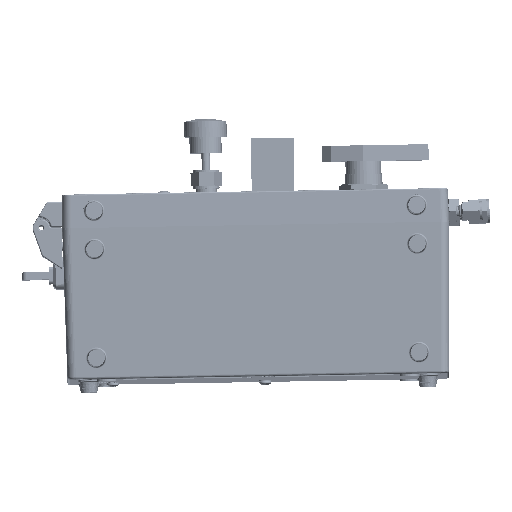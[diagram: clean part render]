
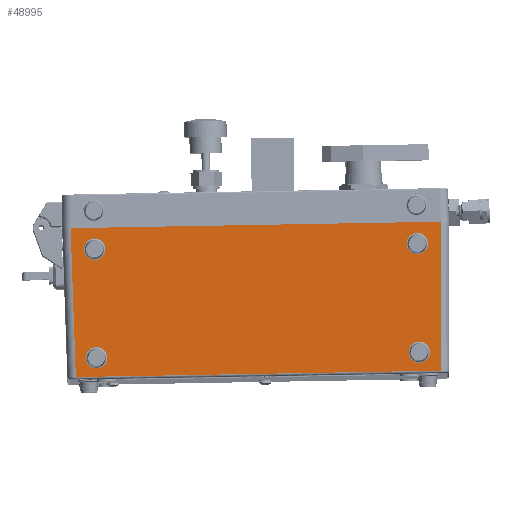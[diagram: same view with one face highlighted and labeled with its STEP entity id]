
A CAD part, front view. The second image highlights one B-rep face of the part: STEP entity #48995.
In plain terms, the highlighted planar face has unit normal (0, -1, 0).
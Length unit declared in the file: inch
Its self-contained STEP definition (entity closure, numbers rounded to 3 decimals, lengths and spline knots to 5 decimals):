
#4519 = CARTESIAN_POINT ( 'NONE',  ( -4.37488, 0., 9.24694 ) ) ;
#5379 = ORIENTED_EDGE ( 'NONE', *, *, #472156, .F. ) ;
#6114 = CIRCLE ( 'NONE', #458488, 0.25 ) ;
#12433 = CIRCLE ( 'NONE', #215433, 0.25 ) ;
#15913 = EDGE_LOOP ( 'NONE', ( #249072, #5379 ) ) ;
#21986 = CARTESIAN_POINT ( 'NONE',  ( -3.61627, 0., 8.76011 ) ) ;
#22832 = CARTESIAN_POINT ( 'NONE',  ( 3.97774, 0., 6.59743 ) ) ;
#24539 = EDGE_LOOP ( 'NONE', ( #476287, #180617, #330321, #385509 ) ) ;
#26796 = DIRECTION ( 'NONE',  ( -0.017, 0., 1. ) ) ;
#29016 = VERTEX_POINT ( 'NONE', #308467 ) ;
#29191 = EDGE_CURVE ( 'NONE', #53245, #47158, #323024, .T. ) ;
#34544 = DIRECTION ( 'NONE',  ( -0.035, 0., 0.999 ) ) ;
#41278 = DIRECTION ( 'NONE',  ( -0.017, 0., 1. ) ) ;
#41744 = CARTESIAN_POINT ( 'NONE',  ( 3.9377, 0., 8.89194 ) ) ;
#44591 = DIRECTION ( 'NONE',  ( 0., -1., 0. ) ) ;
#44761 = DIRECTION ( 'NONE',  ( -1., 0., -0.017 ) ) ;
#45517 = EDGE_LOOP ( 'NONE', ( #267091, #366267 ) ) ;
#47158 = VERTEX_POINT ( 'NONE', #326958 ) ;
#48995 = ADVANCED_FACE ( 'NONE', ( #295420, #109790, #107359, #256308, #405396 ), #414955, .T. ) ;
#53245 = VERTEX_POINT ( 'NONE', #169952 ) ;
#59188 = DIRECTION ( 'NONE',  ( -0.017, 0., 1. ) ) ;
#59425 = CARTESIAN_POINT ( 'NONE',  ( 3.98647, 0., 6.09751 ) ) ;
#66398 = LINE ( 'NONE', #259203, #364393 ) ;
#72707 = EDGE_CURVE ( 'NONE', #386450, #334990, #245114, .T. ) ;
#75458 = DIRECTION ( 'NONE',  ( 0., -1., 0. ) ) ;
#88629 = DIRECTION ( 'NONE',  ( 0., -1., 0. ) ) ;
#95147 = DIRECTION ( 'NONE',  ( -1., 0., -0.017 ) ) ;
#95548 = DIRECTION ( 'NONE',  ( -0.017, 0., 1. ) ) ;
#97384 = CARTESIAN_POINT ( 'NONE',  ( -4.05644, 0., 5.76616 ) ) ;
#107250 = DIRECTION ( 'NONE',  ( -0.017, 0., 1. ) ) ;
#107359 = FACE_BOUND ( 'NONE', #45517, .T. ) ;
#108607 = EDGE_CURVE ( 'NONE', #280650, #478533, #298890, .T. ) ;
#109790 = FACE_BOUND ( 'NONE', #15913, .T. ) ;
#119793 = DIRECTION ( 'NONE',  ( -0.017, 0., 1. ) ) ;
#120033 = AXIS2_PLACEMENT_3D ( 'NONE', #423261, #88629, #59188 ) ;
#129997 = CARTESIAN_POINT ( 'NONE',  ( 4.48207, 0., 9.40152 ) ) ;
#132408 = AXIS2_PLACEMENT_3D ( 'NONE', #444363, #75458, #107250 ) ;
#134571 = DIRECTION ( 'NONE',  ( 0., -1., 0. ) ) ;
#137215 = EDGE_CURVE ( 'NONE', #47158, #53245, #12433, .T. ) ;
#139483 = CIRCLE ( 'NONE', #482680, 0.25 ) ;
#141960 = EDGE_CURVE ( 'NONE', #216763, #238064, #389837, .T. ) ;
#143557 = DIRECTION ( 'NONE',  ( -0.017, 0., 1. ) ) ;
#151660 = DIRECTION ( 'NONE',  ( 0., -1., 0. ) ) ;
#157437 = EDGE_LOOP ( 'NONE', ( #482461, #284400 ) ) ;
#168706 = EDGE_CURVE ( 'NONE', #238064, #216763, #220721, .T. ) ;
#169952 = CARTESIAN_POINT ( 'NONE',  ( -3.62063, 0., 9.01007 ) ) ;
#174579 = EDGE_CURVE ( 'NONE', #433099, #478533, #66398, .T. ) ;
#175124 = VERTEX_POINT ( 'NONE', #440793 ) ;
#175479 = DIRECTION ( 'NONE',  ( 0., -1., 0. ) ) ;
#177710 = EDGE_CURVE ( 'NONE', #175124, #311378, #6114, .T. ) ;
#180617 = ORIENTED_EDGE ( 'NONE', *, *, #108607, .T. ) ;
#208331 = EDGE_CURVE ( 'NONE', #29016, #280650, #288579, .T. ) ;
#213725 = AXIS2_PLACEMENT_3D ( 'NONE', #441599, #402513, #143557 ) ;
#215433 = AXIS2_PLACEMENT_3D ( 'NONE', #21986, #324849, #26796 ) ;
#216763 = VERTEX_POINT ( 'NONE', #22832 ) ;
#219238 = EDGE_LOOP ( 'NONE', ( #275580, #254776 ) ) ;
#220721 = CIRCLE ( 'NONE', #478157, 0.25 ) ;
#237235 = EDGE_CURVE ( 'NONE', #29016, #433099, #437050, .T. ) ;
#238064 = VERTEX_POINT ( 'NONE', #59425 ) ;
#245114 = CIRCLE ( 'NONE', #213725, 0.25 ) ;
#249072 = ORIENTED_EDGE ( 'NONE', *, *, #177710, .F. ) ;
#254776 = ORIENTED_EDGE ( 'NONE', *, *, #137215, .F. ) ;
#256308 = FACE_BOUND ( 'NONE', #219238, .T. ) ;
#259203 = CARTESIAN_POINT ( 'NONE',  ( -4.17342, 0., 9.1165 ) ) ;
#261101 = DIRECTION ( 'NONE',  ( 0., -1., 0. ) ) ;
#262166 = CARTESIAN_POINT ( 'NONE',  ( -4.37488, 0., 9.24694 ) ) ;
#267091 = ORIENTED_EDGE ( 'NONE', *, *, #464232, .F. ) ;
#275580 = ORIENTED_EDGE ( 'NONE', *, *, #29191, .F. ) ;
#277485 = CARTESIAN_POINT ( 'NONE',  ( 3.94206, 0., 8.64198 ) ) ;
#280650 = VERTEX_POINT ( 'NONE', #129997 ) ;
#284400 = ORIENTED_EDGE ( 'NONE', *, *, #168706, .F. ) ;
#288579 = LINE ( 'NONE', #369169, #294968 ) ;
#294968 = VECTOR ( 'NONE', #479118, 39.37008 ) ;
#295420 = FACE_BOUND ( 'NONE', #157437, .T. ) ;
#298890 = LINE ( 'NONE', #262166, #344586 ) ;
#304915 = CARTESIAN_POINT ( 'NONE',  ( -3.5675, 0., 5.96567 ) ) ;
#305903 = DIRECTION ( 'NONE',  ( -0.017, 0., 1. ) ) ;
#308467 = CARTESIAN_POINT ( 'NONE',  ( 4.48207, 0., 5.91518 ) ) ;
#311378 = VERTEX_POINT ( 'NONE', #277485 ) ;
#322123 = DIRECTION ( 'NONE',  ( -0.017, 0., 1. ) ) ;
#322128 = CIRCLE ( 'NONE', #330167, 0.25 ) ;
#322252 = CARTESIAN_POINT ( 'NONE',  ( -4.31406, 0., 5.76166 ) ) ;
#323024 = CIRCLE ( 'NONE', #120033, 0.25 ) ;
#323560 = CARTESIAN_POINT ( 'NONE',  ( -4.17809, 0., 9.25038 ) ) ;
#324849 = DIRECTION ( 'NONE',  ( 0., -1., 0. ) ) ;
#326958 = CARTESIAN_POINT ( 'NONE',  ( -3.61191, 0., 8.51015 ) ) ;
#330167 = AXIS2_PLACEMENT_3D ( 'NONE', #41744, #151660, #119793 ) ;
#330321 = ORIENTED_EDGE ( 'NONE', *, *, #174579, .F. ) ;
#334990 = VERTEX_POINT ( 'NONE', #362531 ) ;
#344586 = VECTOR ( 'NONE', #44761, 39.37008 ) ;
#362531 = CARTESIAN_POINT ( 'NONE',  ( -3.57623, 0., 6.4656 ) ) ;
#363136 = AXIS2_PLACEMENT_3D ( 'NONE', #4519, #261101, #41278 ) ;
#364155 = CARTESIAN_POINT ( 'NONE',  ( 3.9821, 0., 6.34747 ) ) ;
#364393 = VECTOR ( 'NONE', #34544, 39.37008 ) ;
#366267 = ORIENTED_EDGE ( 'NONE', *, *, #72707, .F. ) ;
#369169 = CARTESIAN_POINT ( 'NONE',  ( 4.48207, 0., 5.91518 ) ) ;
#385509 = ORIENTED_EDGE ( 'NONE', *, *, #237235, .F. ) ;
#386450 = VERTEX_POINT ( 'NONE', #304915 ) ;
#389837 = CIRCLE ( 'NONE', #132408, 0.25 ) ;
#402513 = DIRECTION ( 'NONE',  ( 0., -1., 0. ) ) ;
#405396 = FACE_OUTER_BOUND ( 'NONE', #24539, .T. ) ;
#414955 = PLANE ( 'NONE',  #363136 ) ;
#415865 = CARTESIAN_POINT ( 'NONE',  ( 3.9377, 0., 8.89194 ) ) ;
#416409 = VECTOR ( 'NONE', #95147, 39.37008 ) ;
#423261 = CARTESIAN_POINT ( 'NONE',  ( -3.61627, 0., 8.76011 ) ) ;
#432068 = CARTESIAN_POINT ( 'NONE',  ( -3.57186, 0., 6.21564 ) ) ;
#433099 = VERTEX_POINT ( 'NONE', #97384 ) ;
#437050 = LINE ( 'NONE', #322252, #416409 ) ;
#440793 = CARTESIAN_POINT ( 'NONE',  ( 3.93333, 0., 9.14191 ) ) ;
#441599 = CARTESIAN_POINT ( 'NONE',  ( -3.57186, 0., 6.21564 ) ) ;
#444363 = CARTESIAN_POINT ( 'NONE',  ( 3.9821, 0., 6.34747 ) ) ;
#458488 = AXIS2_PLACEMENT_3D ( 'NONE', #415865, #44591, #305903 ) ;
#464232 = EDGE_CURVE ( 'NONE', #334990, #386450, #139483, .T. ) ;
#472156 = EDGE_CURVE ( 'NONE', #311378, #175124, #322128, .T. ) ;
#476287 = ORIENTED_EDGE ( 'NONE', *, *, #208331, .T. ) ;
#478157 = AXIS2_PLACEMENT_3D ( 'NONE', #364155, #134571, #95548 ) ;
#478533 = VERTEX_POINT ( 'NONE', #323560 ) ;
#479118 = DIRECTION ( 'NONE',  ( 0., 0., 1. ) ) ;
#482461 = ORIENTED_EDGE ( 'NONE', *, *, #141960, .F. ) ;
#482680 = AXIS2_PLACEMENT_3D ( 'NONE', #432068, #175479, #322123 ) ;
